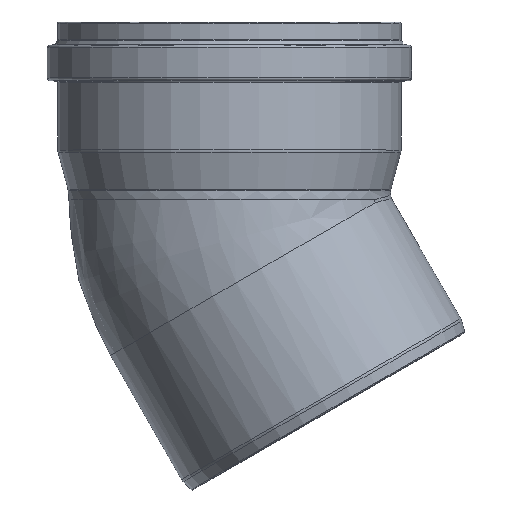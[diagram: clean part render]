
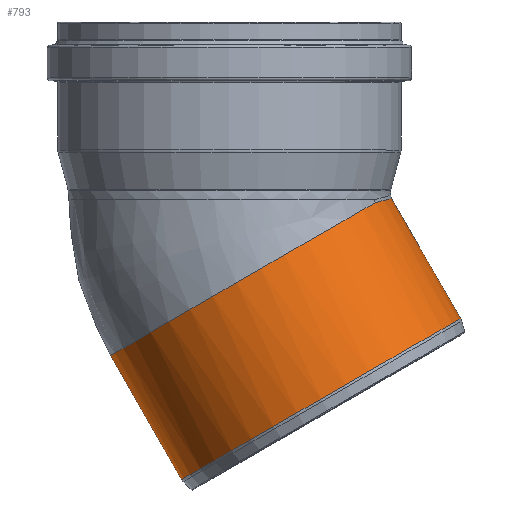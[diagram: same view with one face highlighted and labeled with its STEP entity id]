
A CAD part, top view. The second image highlights one B-rep face of the part: STEP entity #793.
In plain terms, the highlighted cylindrical face has radius 250.25 mm (diameter 500.5 mm), a full revolution.
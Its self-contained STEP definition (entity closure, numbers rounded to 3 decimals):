
#40=LINE('',#1594,#61);
#61=VECTOR('',#1072,250.25);
#80=ELLIPSE('',#867,259.784,250.25);
#81=ELLIPSE('',#868,259.784,250.25);
#84=CYLINDRICAL_SURFACE('',#882,250.25);
#102=FACE_OUTER_BOUND('',#149,.T.);
#149=EDGE_LOOP('',(#554,#555,#556,#557,#558,#559,#560));
#198=CIRCLE('',#869,250.25);
#208=CIRCLE('',#883,250.25);
#209=CIRCLE('',#884,250.25);
#301=VERTEX_POINT('',#1380);
#302=VERTEX_POINT('',#1445);
#303=VERTEX_POINT('',#1510);
#311=VERTEX_POINT('',#1590);
#312=VERTEX_POINT('',#1591);
#391=EDGE_CURVE('',#302,#303,#80,.T.);
#392=EDGE_CURVE('',#303,#301,#81,.T.);
#393=EDGE_CURVE('',#302,#301,#198,.T.);
#405=EDGE_CURVE('',#311,#312,#208,.T.);
#406=EDGE_CURVE('',#312,#311,#209,.T.);
#407=EDGE_CURVE('',#312,#303,#40,.T.);
#554=ORIENTED_EDGE('',*,*,#405,.F.);
#555=ORIENTED_EDGE('',*,*,#406,.F.);
#556=ORIENTED_EDGE('',*,*,#407,.T.);
#557=ORIENTED_EDGE('',*,*,#391,.F.);
#558=ORIENTED_EDGE('',*,*,#393,.T.);
#559=ORIENTED_EDGE('',*,*,#392,.F.);
#560=ORIENTED_EDGE('',*,*,#407,.F.);
#793=ADVANCED_FACE('',(#102),#84,.T.);
#867=AXIS2_PLACEMENT_3D('',#1511,#1034,#1035);
#868=AXIS2_PLACEMENT_3D('',#1512,#1036,#1037);
#869=AXIS2_PLACEMENT_3D('',#1540,#1038,#1039);
#882=AXIS2_PLACEMENT_3D('',#1589,#1066,#1067);
#883=AXIS2_PLACEMENT_3D('',#1592,#1068,#1069);
#884=AXIS2_PLACEMENT_3D('',#1593,#1070,#1071);
#1034=DIRECTION('center_axis',(-0.249,0.968,0.));
#1035=DIRECTION('ref_axis',(0.968,0.249,0.));
#1036=DIRECTION('center_axis',(-0.249,0.968,0.));
#1037=DIRECTION('ref_axis',(0.968,0.249,0.));
#1038=DIRECTION('center_axis',(0.5,-0.866,0.));
#1039=DIRECTION('ref_axis',(0.866,0.5,0.));
#1066=DIRECTION('center_axis',(0.5,-0.866,0.));
#1067=DIRECTION('ref_axis',(-0.866,-0.5,0.));
#1068=DIRECTION('center_axis',(0.5,-0.866,0.));
#1069=DIRECTION('ref_axis',(0.866,0.5,0.));
#1070=DIRECTION('center_axis',(0.5,-0.866,0.));
#1071=DIRECTION('ref_axis',(0.866,0.5,0.));
#1072=DIRECTION('',(-0.5,0.866,0.));
#1380=CARTESIAN_POINT('',(226.455,58.267,-109.032));
#1445=CARTESIAN_POINT('',(226.455,58.267,109.032));
#1510=CARTESIAN_POINT('',(251.59,64.734,0.));
#1511=CARTESIAN_POINT('Origin',(0.,0.,
0.));
#1512=CARTESIAN_POINT('Origin',(0.,0.,
0.));
#1540=CARTESIAN_POINT('Origin',(31.384,-54.358,0.));
#1589=CARTESIAN_POINT('Origin',(86.915,-150.541,0.));
#1590=CARTESIAN_POINT('',(142.447,-246.725,250.25));
#1591=CARTESIAN_POINT('',(359.17,-121.6,0.));
#1592=CARTESIAN_POINT('Origin',(142.447,-246.725,0.));
#1593=CARTESIAN_POINT('Origin',(142.447,-246.725,0.));
#1594=CARTESIAN_POINT('',(303.638,-25.416,0.));
